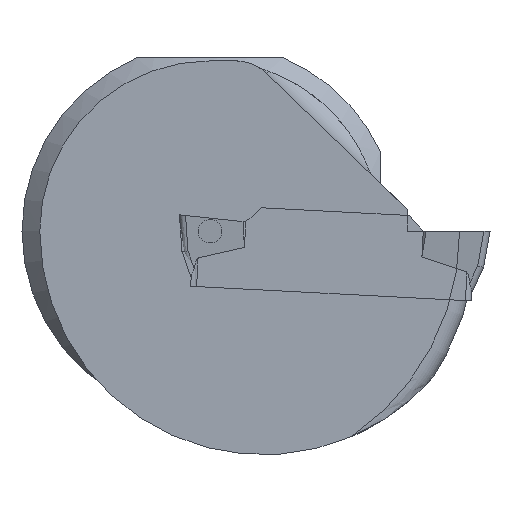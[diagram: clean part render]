
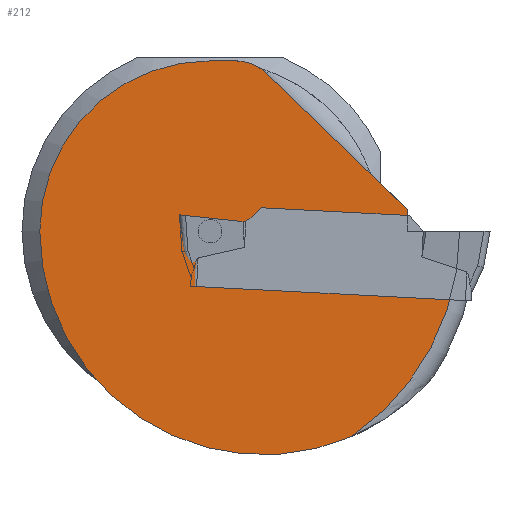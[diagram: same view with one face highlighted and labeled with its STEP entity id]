
A CAD part, left-side view. The second image highlights one B-rep face of the part: STEP entity #212.
In plain terms, the highlighted planar face has unit normal (-1, 0, 0).
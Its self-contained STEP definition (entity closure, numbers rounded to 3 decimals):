
#123=PLANE('',#1196);
#212=ADVANCED_FACE('',(#290,#291),#123,.T.);
#290=FACE_BOUND('',#306,.T.);
#291=FACE_BOUND('',#307,.T.);
#306=EDGE_LOOP('',(#451));
#307=EDGE_LOOP('',(#452,#453,#454,#455,#456,#457,#458,#459));
#396=CIRCLE('',#1184,11.5);
#401=CIRCLE('',#1192,0.8);
#402=CIRCLE('',#1193,3.);
#403=CIRCLE('',#1194,15.1);
#404=CIRCLE('',#1195,16.85);
#451=ORIENTED_EDGE('',*,*,#863,.T.);
#452=ORIENTED_EDGE('',*,*,#864,.T.);
#453=ORIENTED_EDGE('',*,*,#865,.T.);
#454=ORIENTED_EDGE('',*,*,#866,.T.);
#455=ORIENTED_EDGE('',*,*,#854,.F.);
#456=ORIENTED_EDGE('',*,*,#867,.T.);
#457=ORIENTED_EDGE('',*,*,#868,.T.);
#458=ORIENTED_EDGE('',*,*,#869,.T.);
#459=ORIENTED_EDGE('',*,*,#870,.T.);
#742=VERTEX_POINT('',#1590);
#750=VERTEX_POINT('',#1628);
#757=VERTEX_POINT('',#1648);
#758=VERTEX_POINT('',#1650);
#759=VERTEX_POINT('',#1651);
#760=VERTEX_POINT('',#1653);
#761=VERTEX_POINT('',#1656);
#762=VERTEX_POINT('',#1658);
#763=VERTEX_POINT('',#1660);
#854=EDGE_CURVE('',#750,#742,#396,.T.);
#863=EDGE_CURVE('',#757,#757,#401,.T.);
#864=EDGE_CURVE('',#758,#759,#1009,.T.);
#865=EDGE_CURVE('',#759,#760,#402,.T.);
#866=EDGE_CURVE('',#760,#742,#1010,.T.);
#867=EDGE_CURVE('',#750,#761,#403,.T.);
#868=EDGE_CURVE('',#761,#762,#404,.T.);
#869=EDGE_CURVE('',#762,#763,#1011,.T.);
#870=EDGE_CURVE('',#763,#758,#1012,.T.);
#1009=LINE('',#1649,#1097);
#1010=LINE('',#1654,#1098);
#1011=LINE('',#1659,#1099);
#1012=LINE('',#1661,#1100);
#1097=VECTOR('',#1318,1.);
#1098=VECTOR('',#1321,1.);
#1099=VECTOR('',#1326,1.);
#1100=VECTOR('',#1327,1.);
#1184=AXIS2_PLACEMENT_3D('',#1629,#1296,#1297);
#1192=AXIS2_PLACEMENT_3D('',#1647,#1316,#1317);
#1193=AXIS2_PLACEMENT_3D('',#1652,#1319,#1320);
#1194=AXIS2_PLACEMENT_3D('',#1655,#1322,#1323);
#1195=AXIS2_PLACEMENT_3D('',#1657,#1324,#1325);
#1196=AXIS2_PLACEMENT_3D('',#1662,#1328,#1329);
#1296=DIRECTION('',(1.,0.,0.));
#1297=DIRECTION('',(0.,0.,1.));
#1316=DIRECTION('',(1.,0.,0.));
#1317=DIRECTION('',(0.,0.,1.));
#1318=DIRECTION('',(0.,0.719,0.695));
#1319=DIRECTION('',(-1.,0.,0.));
#1320=DIRECTION('',(0.,-1.,0.));
#1321=DIRECTION('',(0.,1.,0.));
#1322=DIRECTION('',(-1.,0.,0.));
#1323=DIRECTION('',(0.,0.,1.));
#1324=DIRECTION('',(-1.,0.,0.));
#1325=DIRECTION('',(0.,0.,1.));
#1326=DIRECTION('',(0.,1.,0.));
#1327=DIRECTION('',(0.,0.,1.));
#1328=DIRECTION('',(-1.,0.,0.));
#1329=DIRECTION('',(0.,0.,1.));
#1590=CARTESIAN_POINT('',(0.35,18.9,11.5));
#1628=CARTESIAN_POINT('',(0.35,30.4,0.));
#1629=CARTESIAN_POINT('',(0.35,18.9,0.));
#1647=CARTESIAN_POINT('',(0.35,18.9,0.));
#1648=CARTESIAN_POINT('',(0.35,18.9,0.8));
#1649=CARTESIAN_POINT('',(0.35,5.572,1.451));
#1650=CARTESIAN_POINT('',(0.35,5.572,1.451));
#1651=CARTESIAN_POINT('',(0.35,15.106,10.658));
#1652=CARTESIAN_POINT('',(0.35,17.19,8.5));
#1653=CARTESIAN_POINT('',(0.35,17.19,11.5));
#1654=CARTESIAN_POINT('',(0.35,0.9,11.5));
#1655=CARTESIAN_POINT('',(0.35,15.3,0.));
#1656=CARTESIAN_POINT('',(0.35,9.334,-13.872));
#1657=CARTESIAN_POINT('',(0.35,18.9,0.));
#1658=CARTESIAN_POINT('',(0.35,2.05,0.));
#1659=CARTESIAN_POINT('',(0.35,0.,0.));
#1660=CARTESIAN_POINT('',(0.35,5.572,0.));
#1661=CARTESIAN_POINT('',(0.35,5.572,0.951));
#1662=CARTESIAN_POINT('',(0.35,0.9,0.));
